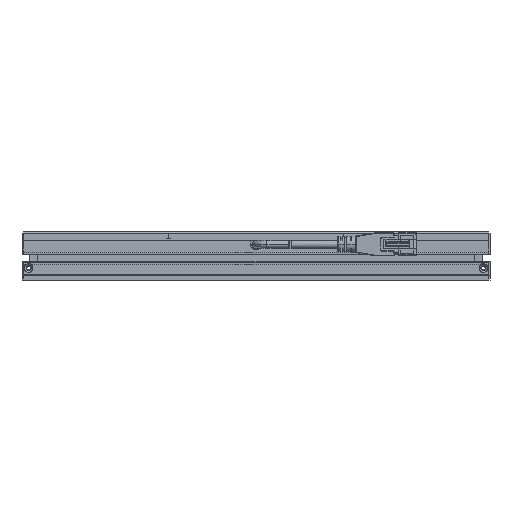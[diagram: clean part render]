
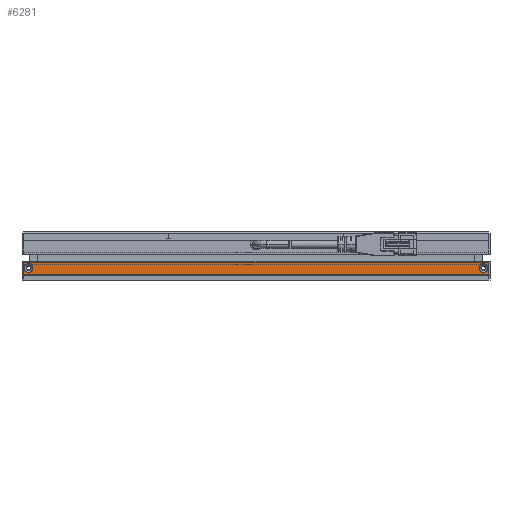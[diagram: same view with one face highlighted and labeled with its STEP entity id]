
A CAD part, left-side view. The second image highlights one B-rep face of the part: STEP entity #6281.
In plain terms, the highlighted planar face has unit normal (-1, 0, 0).
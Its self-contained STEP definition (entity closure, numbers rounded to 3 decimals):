
#3 = VERTEX_POINT ( 'NONE', #2451 ) ;
#38 = DIRECTION ( 'NONE',  ( 1., 0., 0. ) ) ;
#48 = AXIS2_PLACEMENT_3D ( 'NONE', #7069, #7965, #8819 ) ;
#154 = FACE_BOUND ( 'NONE', #7257, .T. ) ;
#163 = CARTESIAN_POINT ( 'NONE',  ( -157., 107., -9.85 ) ) ;
#187 = VERTEX_POINT ( 'NONE', #6914 ) ;
#191 = DIRECTION ( 'NONE',  ( 0., 0., 1. ) ) ;
#400 = EDGE_CURVE ( 'NONE', #187, #2252, #1493, .T. ) ;
#514 = CARTESIAN_POINT ( 'NONE',  ( -157., 104., -12.5 ) ) ;
#823 = CIRCLE ( 'NONE', #10833, 2. ) ;
#942 = LINE ( 'NONE', #5925, #8930 ) ;
#1073 = CARTESIAN_POINT ( 'NONE',  ( -157., -104., -14.5 ) ) ;
#1295 = CARTESIAN_POINT ( 'NONE',  ( -157., 104., -10.5 ) ) ;
#1388 = ORIENTED_EDGE ( 'NONE', *, *, #6279, .T. ) ;
#1493 = LINE ( 'NONE', #163, #1632 ) ;
#1632 = VECTOR ( 'NONE', #4659, 1000. ) ;
#1830 = ORIENTED_EDGE ( 'NONE', *, *, #9452, .T. ) ;
#1995 = EDGE_LOOP ( 'NONE', ( #2790, #3806, #10052, #5824 ) ) ;
#2252 = VERTEX_POINT ( 'NONE', #6138 ) ;
#2451 = CARTESIAN_POINT ( 'NONE',  ( -157., -106.5, -15.5 ) ) ;
#2778 = CARTESIAN_POINT ( 'NONE',  ( -157., -104., -12.5 ) ) ;
#2790 = ORIENTED_EDGE ( 'NONE', *, *, #400, .F. ) ;
#2887 = CARTESIAN_POINT ( 'NONE',  ( -157., -106.5, 0. ) ) ;
#3114 = CIRCLE ( 'NONE', #6408, 2. ) ;
#3118 = DIRECTION ( 'NONE',  ( 1., 0., 0. ) ) ;
#3242 = VERTEX_POINT ( 'NONE', #1073 ) ;
#3547 = EDGE_CURVE ( 'NONE', #7780, #10791, #3114, .T. ) ;
#3705 = DIRECTION ( 'NONE',  ( 0., 0., -1. ) ) ;
#3806 = ORIENTED_EDGE ( 'NONE', *, *, #8483, .T. ) ;
#4161 = CARTESIAN_POINT ( 'NONE',  ( -157., -104., -10.5 ) ) ;
#4619 = AXIS2_PLACEMENT_3D ( 'NONE', #6184, #8959, #191 ) ;
#4659 = DIRECTION ( 'NONE',  ( 0., -1., 0. ) ) ;
#4815 = CIRCLE ( 'NONE', #5792, 2. ) ;
#5235 = FACE_OUTER_BOUND ( 'NONE', #1995, .T. ) ;
#5297 = EDGE_LOOP ( 'NONE', ( #1388, #7924 ) ) ;
#5358 = DIRECTION ( 'NONE',  ( 0., 0., -1. ) ) ;
#5513 = CARTESIAN_POINT ( 'NONE',  ( -157., 106.5, -15.5 ) ) ;
#5660 = VERTEX_POINT ( 'NONE', #4161 ) ;
#5792 = AXIS2_PLACEMENT_3D ( 'NONE', #2778, #38, #8921 ) ;
#5824 = ORIENTED_EDGE ( 'NONE', *, *, #10031, .F. ) ;
#5925 = CARTESIAN_POINT ( 'NONE',  ( -157., 107., -15.5 ) ) ;
#6138 = CARTESIAN_POINT ( 'NONE',  ( -157., -106.5, -9.85 ) ) ;
#6184 = CARTESIAN_POINT ( 'NONE',  ( -157., 107., -15.5 ) ) ;
#6279 = EDGE_CURVE ( 'NONE', #3242, #5660, #4815, .T. ) ;
#6281 = ADVANCED_FACE ( 'NONE', ( #154, #9613, #5235 ), #9826, .F. ) ;
#6408 = AXIS2_PLACEMENT_3D ( 'NONE', #514, #3118, #6683 ) ;
#6449 = VECTOR ( 'NONE', #3705, 1000. ) ;
#6683 = DIRECTION ( 'NONE',  ( 0., 0., -1. ) ) ;
#6724 = LINE ( 'NONE', #10757, #6449 ) ;
#6914 = CARTESIAN_POINT ( 'NONE',  ( -157., 106.5, -9.85 ) ) ;
#6930 = EDGE_CURVE ( 'NONE', #5660, #3242, #8967, .T. ) ;
#7069 = CARTESIAN_POINT ( 'NONE',  ( -157., -104., -12.5 ) ) ;
#7257 = EDGE_LOOP ( 'NONE', ( #8242, #1830 ) ) ;
#7297 = LINE ( 'NONE', #2887, #10704 ) ;
#7329 = DIRECTION ( 'NONE',  ( 0., 0., -1. ) ) ;
#7780 = VERTEX_POINT ( 'NONE', #11144 ) ;
#7924 = ORIENTED_EDGE ( 'NONE', *, *, #6930, .T. ) ;
#7965 = DIRECTION ( 'NONE',  ( 1., 0., 0. ) ) ;
#8041 = CARTESIAN_POINT ( 'NONE',  ( -157., 104., -12.5 ) ) ;
#8242 = ORIENTED_EDGE ( 'NONE', *, *, #3547, .T. ) ;
#8483 = EDGE_CURVE ( 'NONE', #187, #9483, #6724, .T. ) ;
#8543 = DIRECTION ( 'NONE',  ( 0., -1., 0. ) ) ;
#8819 = DIRECTION ( 'NONE',  ( 0., 0., -1. ) ) ;
#8921 = DIRECTION ( 'NONE',  ( 0., 0., -1. ) ) ;
#8930 = VECTOR ( 'NONE', #8543, 1000. ) ;
#8959 = DIRECTION ( 'NONE',  ( 1., 0., 0. ) ) ;
#8967 = CIRCLE ( 'NONE', #48, 2. ) ;
#9452 = EDGE_CURVE ( 'NONE', #10791, #7780, #823, .T. ) ;
#9483 = VERTEX_POINT ( 'NONE', #5513 ) ;
#9613 = FACE_BOUND ( 'NONE', #5297, .T. ) ;
#9714 = DIRECTION ( 'NONE',  ( 1., 0., 0. ) ) ;
#9806 = EDGE_CURVE ( 'NONE', #9483, #3, #942, .T. ) ;
#9826 = PLANE ( 'NONE',  #4619 ) ;
#10031 = EDGE_CURVE ( 'NONE', #2252, #3, #7297, .T. ) ;
#10052 = ORIENTED_EDGE ( 'NONE', *, *, #9806, .T. ) ;
#10704 = VECTOR ( 'NONE', #7329, 1000. ) ;
#10757 = CARTESIAN_POINT ( 'NONE',  ( -157., 106.5, 0. ) ) ;
#10791 = VERTEX_POINT ( 'NONE', #1295 ) ;
#10833 = AXIS2_PLACEMENT_3D ( 'NONE', #8041, #9714, #5358 ) ;
#11144 = CARTESIAN_POINT ( 'NONE',  ( -157., 104., -14.5 ) ) ;
